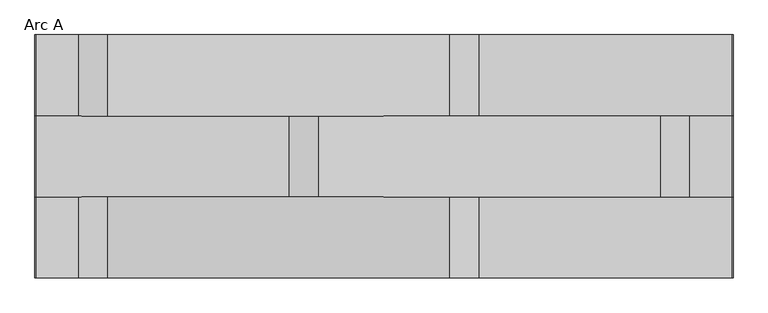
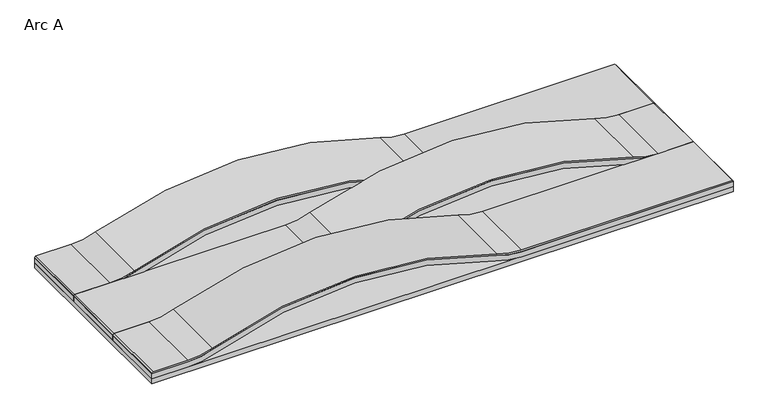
"""IFC4 building model written with IfcOpenShell, lengths in millimetres: proxy geometry, FilzFelt_Arc : Arc A."""

from ifc_helpers import new_model, si_unit, point, frame, frame_2d, origin, origin_with_axes, place, context, project, spatial, polyline, circle_curve, trimmed, segment, composite_curve, outline, extrude, source, transform, mapped, element, save


def arc_a_f8c55607(model_context):
    return source(origin(), model_context, "Body", "SweptSolid", [
        extrude(outline(composite_curve([segment(polyline([(19.952, -546.1), (10.046, -546.1), (10.046, -477.9298789)]), True, "CONTINUOUS"), segment(trimmed(circle_curve(frame_2d((146.952, -477.9298789)), 136.906), [point((10.046, -477.9298789))], [point((19.1533167, -428.8304962))], False, "CARTESIAN"), True, "CONTINUOUS"), segment(trimmed(circle_curve(frame_2d((-667.2995118, -165.1)), 735.3715118), [point((19.1533167, -428.8304962))], [point((19.1533167, 98.6304962))], True, "CARTESIAN"), True, "CONTINUOUS"), segment(trimmed(circle_curve(frame_2d((146.952, 147.7298789)), 136.906), [point((19.1533167, 98.6304962))], [point((10.046, 147.7298789))], False, "CARTESIAN"), True, "CONTINUOUS"), segment(polyline([(10.046, 147.7298789), (10.046, 546.1), (19.952, 546.1), (19.952, 147.7298789)]), True, "CONTINUOUS"), segment(trimmed(circle_curve(frame_2d((146.952, 147.7298789)), 127.0), [point((19.952, 147.7298789))], [point((28.4003457, 102.1831417))], True, "CARTESIAN"), True, "CONTINUOUS"), segment(trimmed(circle_curve(frame_2d((-667.2995118, -165.1)), 745.2775118), [point((28.4003457, 102.1831417))], [point((28.4003457, -432.3831417))], False, "CARTESIAN"), True, "CONTINUOUS"), segment(trimmed(circle_curve(frame_2d((146.952, -477.9298789)), 127.0), [point((28.4003457, -432.3831417))], [point((19.952, -477.9298789))], True, "CARTESIAN"), True, "CONTINUOUS"), segment(polyline([(19.952, -477.9298789), (19.952, -546.1)]), True, "CONTINUOUS")], self_intersect=False)), frame((0.0, 63.5, 0.0), z_axis=(0.0, 1.0, 0.0), x_axis=(0.0, 0.0, 1.0)), (0.0, 0.0, 1.0), 127.0),
        extrude(outline(composite_curve([segment(polyline([(19.952, 546.1), (19.952, 477.9298789)]), True, "CONTINUOUS"), segment(trimmed(circle_curve(frame_2d((146.952, 477.9298789)), 127.0), [point((19.952, 477.9298789))], [point((28.4003457, 432.3831417))], True, "CARTESIAN"), True, "CONTINUOUS"), segment(trimmed(circle_curve(frame_2d((-667.2995118, 165.1)), 745.2775118), [point((28.4003457, 432.3831417))], [point((28.4003457, -102.1831417))], False, "CARTESIAN"), True, "CONTINUOUS"), segment(trimmed(circle_curve(frame_2d((146.952, -147.7298789)), 127.0), [point((28.4003457, -102.1831417))], [point((19.952, -147.7298789))], True, "CARTESIAN"), True, "CONTINUOUS"), segment(polyline([(19.952, -147.7298789), (19.952, -546.1), (10.046, -546.1), (10.046, -147.7298789)]), True, "CONTINUOUS"), segment(trimmed(circle_curve(frame_2d((146.952, -147.7298789)), 136.906), [point((10.046, -147.7298789))], [point((19.1533167, -98.6304962))], False, "CARTESIAN"), True, "CONTINUOUS"), segment(trimmed(circle_curve(frame_2d((-667.2995118, 165.1)), 735.3715118), [point((19.1533167, -98.6304962))], [point((19.1533167, 428.8304962))], True, "CARTESIAN"), True, "CONTINUOUS"), segment(trimmed(circle_curve(frame_2d((146.952, 477.9298789)), 136.906), [point((19.1533167, 428.8304962))], [point((10.046, 477.9298789))], False, "CARTESIAN"), True, "CONTINUOUS"), segment(polyline([(10.046, 477.9298789), (10.046, 546.1), (19.952, 546.1)]), True, "CONTINUOUS")], self_intersect=False)), frame((0.0, -63.5, 0.0), z_axis=(0.0, 1.0, 0.0), x_axis=(0.0, 0.0, 1.0)), (0.0, 0.0, 1.0), 127.0),
        extrude(outline(composite_curve([segment(trimmed(circle_curve(frame_2d((146.952, 147.7298789)), 136.906), [point((19.1533167, 98.6304962))], [point((10.046, 147.7298789))], False, "CARTESIAN"), True, "CONTINUOUS"), segment(polyline([(10.046, 147.7298789), (10.046, 546.1), (19.952, 546.1), (19.952, 147.7298789)]), True, "CONTINUOUS"), segment(trimmed(circle_curve(frame_2d((146.952, 147.7298789)), 127.0), [point((19.952, 147.7298789))], [point((28.4003457, 102.1831417))], True, "CARTESIAN"), True, "CONTINUOUS"), segment(trimmed(circle_curve(frame_2d((-667.2995118, -165.1)), 745.2775118), [point((28.4003457, 102.1831417))], [point((28.4003457, -432.3831417))], False, "CARTESIAN"), True, "CONTINUOUS"), segment(trimmed(circle_curve(frame_2d((146.952, -477.9298789)), 127.0), [point((28.4003457, -432.3831417))], [point((19.952, -477.9298789))], True, "CARTESIAN"), True, "CONTINUOUS"), segment(polyline([(19.952, -477.9298789), (19.952, -546.1), (10.046, -546.1), (10.046, -477.9298789)]), True, "CONTINUOUS"), segment(trimmed(circle_curve(frame_2d((146.952, -477.9298789)), 136.906), [point((10.046, -477.9298789))], [point((19.1533167, -428.8304962))], False, "CARTESIAN"), True, "CONTINUOUS"), segment(trimmed(circle_curve(frame_2d((-667.2995118, -165.1)), 735.3715118), [point((19.1533167, -428.8304962))], [point((19.1533167, 98.6304962))], True, "CARTESIAN"), True, "CONTINUOUS")], self_intersect=False)), frame((0.0, -190.5, 0.0), z_axis=(0.0, 1.0, 0.0), x_axis=(0.0, 0.0, 1.0)), (0.0, 0.0, 1.0), 127.0),
        extrude(outline(composite_curve([segment(trimmed(circle_curve(frame_2d((150.0, -148.2947345)), 127.0), [point((31.4189275, -102.8246428))], [point((23.0, -148.2947345))], True, "CARTESIAN"), True, "CONTINUOUS"), segment(polyline([(23.0, -148.2947345), (23.0, -544.1), (21.0, -546.1), (19.952, -546.1), (19.952, -147.7298789)]), True, "CONTINUOUS"), segment(trimmed(circle_curve(frame_2d((146.952, -147.7298789)), 127.0), [point((19.952, -147.7298789))], [point((28.4003457, -102.1831417))], False, "CARTESIAN"), True, "CONTINUOUS"), segment(trimmed(circle_curve(frame_2d((-667.2995118, 165.1)), 745.2775118), [point((28.4003457, -102.1831417))], [point((28.4003457, 432.3831417))], True, "CARTESIAN"), True, "CONTINUOUS"), segment(trimmed(circle_curve(frame_2d((146.952, 477.9298789)), 127.0), [point((28.4003457, 432.3831417))], [point((19.952, 477.9298789))], False, "CARTESIAN"), True, "CONTINUOUS"), segment(polyline([(19.952, 477.9298789), (19.952, 546.1), (21.0, 546.1), (23.0, 544.1), (23.0, 478.4947345)]), True, "CONTINUOUS"), segment(trimmed(circle_curve(frame_2d((150.0, 478.4947345)), 127.0), [point((23.0, 478.4947345))], [point((31.4189275, 433.0246428))], True, "CARTESIAN"), True, "CONTINUOUS"), segment(trimmed(circle_curve(frame_2d((-667.2995118, 165.1)), 748.3255118), [point((31.4189275, 433.0246428))], [point((31.4189275, -102.8246428))], False, "CARTESIAN"), True, "CONTINUOUS")], self_intersect=False)), frame((0.0, -63.5, 0.0), z_axis=(0.0, 1.0, 0.0), x_axis=(0.0, 0.0, 1.0)), (0.0, 0.0, 1.0), 127.0),
        extrude(outline(composite_curve([segment(trimmed(circle_curve(frame_2d((-667.2995118, -165.1)), 748.3255118), [point((31.4189275, 102.8246428))], [point((31.4189275, -433.0246428))], False, "CARTESIAN"), True, "CONTINUOUS"), segment(trimmed(circle_curve(frame_2d((150.0, -478.4947345)), 127.0), [point((31.4189275, -433.0246428))], [point((23.0, -478.4947345))], True, "CARTESIAN"), True, "CONTINUOUS"), segment(polyline([(23.0, -478.4947345), (23.0, -544.1), (21.0, -546.1), (19.952, -546.1), (19.952, -477.9298789)]), True, "CONTINUOUS"), segment(trimmed(circle_curve(frame_2d((146.952, -477.9298789)), 127.0), [point((19.952, -477.9298789))], [point((28.4003457, -432.3831417))], False, "CARTESIAN"), True, "CONTINUOUS"), segment(trimmed(circle_curve(frame_2d((-667.2995118, -165.1)), 745.2775118), [point((28.4003457, -432.3831417))], [point((28.4003457, 102.1831417))], True, "CARTESIAN"), True, "CONTINUOUS"), segment(trimmed(circle_curve(frame_2d((146.952, 147.7298789)), 127.0), [point((28.4003457, 102.1831417))], [point((19.952, 147.7298789))], False, "CARTESIAN"), True, "CONTINUOUS"), segment(polyline([(19.952, 147.7298789), (19.952, 546.1), (21.0, 546.1), (23.0, 544.1), (23.0, 148.2947345)]), True, "CONTINUOUS"), segment(trimmed(circle_curve(frame_2d((150.0, 148.2947345)), 127.0), [point((23.0, 148.2947345))], [point((31.4189275, 102.8246428))], True, "CARTESIAN"), True, "CONTINUOUS")], self_intersect=False)), frame((0.0, -190.5, 0.0), z_axis=(0.0, 1.0, 0.0), x_axis=(0.0, 0.0, 1.0)), (0.0, 0.0, 1.0), 127.0),
        extrude(outline(composite_curve([segment(trimmed(circle_curve(frame_2d((-667.2995118, -165.1)), 748.3255118), [point((31.4189275, 102.8246428))], [point((31.4189275, -433.0246428))], False, "CARTESIAN"), True, "CONTINUOUS"), segment(trimmed(circle_curve(frame_2d((150.0, -478.4947345)), 127.0), [point((31.4189275, -433.0246428))], [point((23.0, -478.4947345))], True, "CARTESIAN"), True, "CONTINUOUS"), segment(polyline([(23.0, -478.4947345), (23.0, -544.1), (21.0, -546.1), (19.952, -546.1), (19.952, -477.9298789)]), True, "CONTINUOUS"), segment(trimmed(circle_curve(frame_2d((146.952, -477.9298789)), 127.0), [point((19.952, -477.9298789))], [point((28.4003457, -432.3831417))], False, "CARTESIAN"), True, "CONTINUOUS"), segment(trimmed(circle_curve(frame_2d((-667.2995118, -165.1)), 745.2775118), [point((28.4003457, -432.3831417))], [point((28.4003457, 102.1831417))], True, "CARTESIAN"), True, "CONTINUOUS"), segment(trimmed(circle_curve(frame_2d((146.952, 147.7298789)), 127.0), [point((28.4003457, 102.1831417))], [point((19.952, 147.7298789))], False, "CARTESIAN"), True, "CONTINUOUS"), segment(polyline([(19.952, 147.7298789), (19.952, 546.1), (21.0, 546.1), (23.0, 544.1), (23.0, 148.2947345)]), True, "CONTINUOUS"), segment(trimmed(circle_curve(frame_2d((150.0, 148.2947345)), 127.0), [point((23.0, 148.2947345))], [point((31.4189275, 102.8246428))], True, "CARTESIAN"), True, "CONTINUOUS")], self_intersect=False)), frame((0.0, 63.5, 0.0), z_axis=(0.0, 1.0, 0.0), x_axis=(0.0, 0.0, 1.0)), (0.0, 0.0, 1.0), 127.0),
        extrude(outline(polyline([(546.1, -190.5), (-546.1, -190.5), (-546.1, 190.5), (546.1, 190.5), (546.1, -190.5)])), origin_with_axes(), (0.0, 0.0, 1.0), 10.0),
    ])


if __name__ == "__main__":
    model = new_model("IFC4")
    model_context = context("Model", 3, world=origin())
    ifc_project = project(units=[si_unit("LENGTHUNIT", "METRE", prefix="MILLI")], contexts=[model_context])
    site = spatial("IfcSite", under=ifc_project)
    building = spatial("IfcBuilding", under=site)
    placement = place(None, origin())
    arc_a_shape = arc_a_f8c55607(model_context)
    element("IfcBuildingElementProxy", 1, Name="FilzFelt_Arc : Arc A", ObjectType="FilzFelt_Arc : Arc A", at=placement, inside=building, context=model_context, shape_type="MappedRepresentation", body=[
        mapped(arc_a_shape, transform((0.0, 0.0, 0.0), x_axis=(1.0, 0.0, 0.0), y_axis=(0.0, 1.0, 0.0), z_axis=(0.0, 0.0, 1.0))),
    ])
    save(model, "model.ifc")
